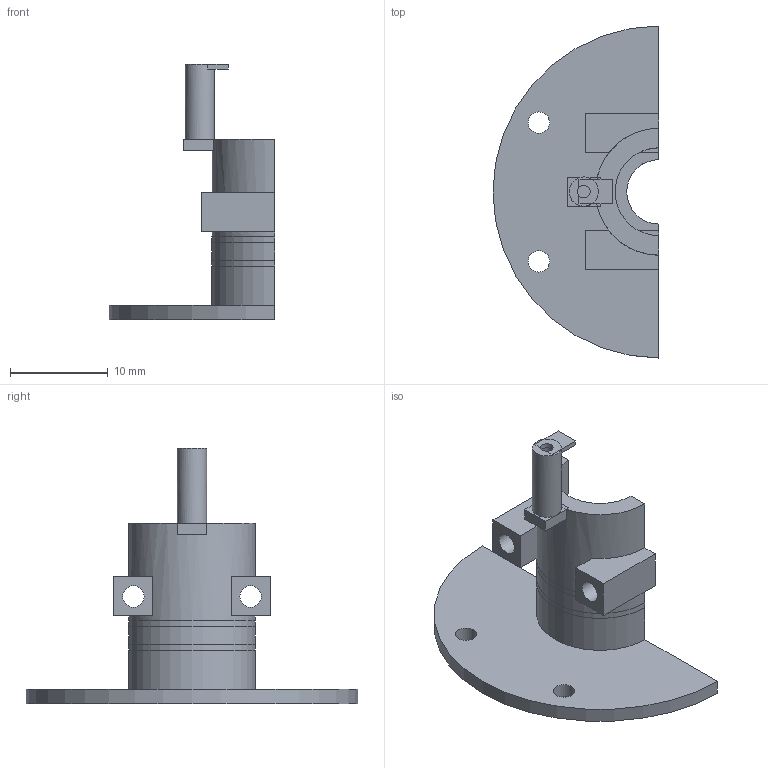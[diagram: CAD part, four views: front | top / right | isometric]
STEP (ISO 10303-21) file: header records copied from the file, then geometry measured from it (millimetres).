
FILE_DESCRIPTION(('Open CASCADE Model'),'2;1');
FILE_NAME('Open CASCADE Shape Model','2026-09-24T02:53:19',('Author'),( 'Open CASCADE'),'Open CASCADE STEP processor 7.8','Open CASCADE 7.8' ,'Unknown');
FILE_SCHEMA(('AUTOMOTIVE_DESIGN { 1 0 10303 214 1 1 1 1 }'));
Length unit declared in the file: millimetre
Products named in the file (1): Open CASCADE STEP translator 7.8 2
Bounding box: 17 x 34 x 26.18 mm (x, y, z)
Volume: 1300.5 mm3; surface area: 2168.6 mm2
Topology: 1 solids, 1 shells, 68 faces, 191 edges, 125 vertices
Faces by surface type: plane 44, cylinder 24
Full cylindrical faces by diameter (mm): 1.3 x2, 2.2 x4, 3 x1
Entity records: 4560 total; most frequent: CARTESIAN_POINT 917, DIRECTION 623, ORIENTED_EDGE 382, PCURVE 382, DEFINITIONAL_REPRESENTATION 382, LINE 303, VECTOR 303, EDGE_CURVE 191
